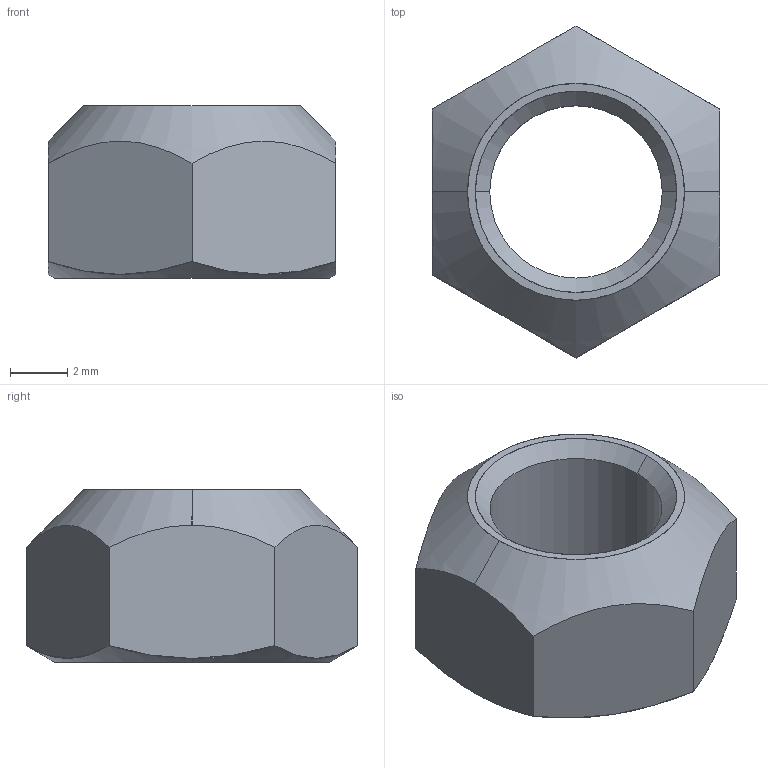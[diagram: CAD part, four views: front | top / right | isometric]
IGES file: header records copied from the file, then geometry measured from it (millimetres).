
Start section: SolidWorks IGES file using analytic representation for surfaces
Global section: file name: C:\Users\liam_\OneDrive\Documents\WORK\Work for WixRoyd\Job Files\J-00021 - Matt Davis CAD Checking\04. CAD Drawings\automotion20190729\P0308.ZP_v2\P0308.ZP_v2_20190913_IGES\P0308.060-ZP.igs; native system: SolidWorks 2017; preprocessor: SolidWorks 2017; author: liam_; date: 190913.213916; units: millimetre
Bounding box: 10 x 11.55 x 6 mm (x, y, z)
Surface area: 385.4 mm2 (no closed solid volume)
Topology: 0 solids, 0 shells, 18 faces, 308 edges, 308 vertices
Faces by surface type: revolution 10, bspline 8
